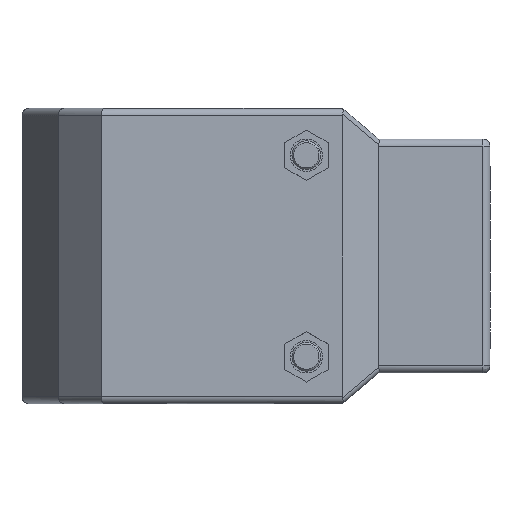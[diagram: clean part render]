
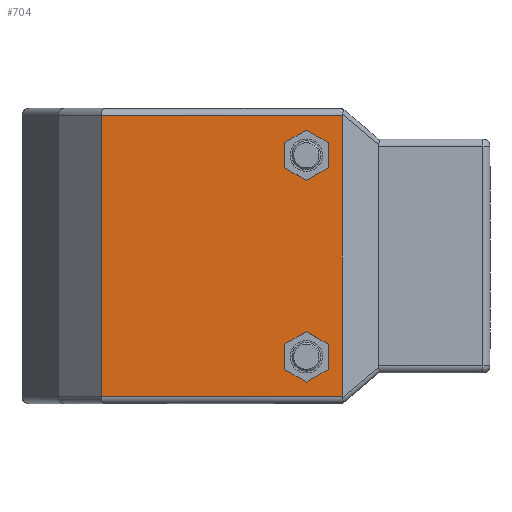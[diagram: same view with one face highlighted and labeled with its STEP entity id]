
A CAD part, front view. The second image highlights one B-rep face of the part: STEP entity #704.
In plain terms, the highlighted planar face has unit normal (0, -1, 0).
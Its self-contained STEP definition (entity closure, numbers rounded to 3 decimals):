
#9 = DIRECTION ( 'NONE',  ( -1., 0., 0. ) ) ;
#58 = VERTEX_POINT ( 'NONE', #1754 ) ;
#100 = LINE ( 'NONE', #913, #3841 ) ;
#167 = CARTESIAN_POINT ( 'NONE',  ( 42.562, -41., 31.5 ) ) ;
#199 = LINE ( 'NONE', #1851, #3766 ) ;
#201 = ORIENTED_EDGE ( 'NONE', *, *, #876, .F. ) ;
#250 = EDGE_CURVE ( 'NONE', #2463, #4385, #3297, .T. ) ;
#286 = ORIENTED_EDGE ( 'NONE', *, *, #346, .T. ) ;
#322 = DIRECTION ( 'NONE',  ( -0.866, 0., 0.5 ) ) ;
#332 = LINE ( 'NONE', #720, #1995 ) ;
#346 = EDGE_CURVE ( 'NONE', #2410, #4014, #100, .T. ) ;
#350 = CARTESIAN_POINT ( 'NONE',  ( 42.562, -41., 24.5 ) ) ;
#352 = VERTEX_POINT ( 'NONE', #3410 ) ;
#449 = CARTESIAN_POINT ( 'NONE',  ( 42.562, -41., 41. ) ) ;
#549 = DIRECTION ( 'NONE',  ( 0., 0., 1. ) ) ;
#581 = EDGE_CURVE ( 'NONE', #2410, #4126, #332, .T. ) ;
#598 = VERTEX_POINT ( 'NONE', #3212 ) ;
#704 = ADVANCED_FACE ( 'NONE', ( #1646, #908, #3012 ), #3405, .F. ) ;
#720 = CARTESIAN_POINT ( 'NONE',  ( -50.1, -41., 39. ) ) ;
#722 = VECTOR ( 'NONE', #3771, 1000. ) ;
#739 = CARTESIAN_POINT ( 'NONE',  ( -20.5, -41., -39. ) ) ;
#825 = VECTOR ( 'NONE', #322, 1000. ) ;
#836 = DIRECTION ( 'NONE',  ( 0., 0., 1. ) ) ;
#839 = EDGE_CURVE ( 'NONE', #58, #1877, #2884, .T. ) ;
#876 = EDGE_CURVE ( 'NONE', #352, #1728, #3607, .T. ) ;
#908 = FACE_BOUND ( 'NONE', #4652, .T. ) ;
#913 = CARTESIAN_POINT ( 'NONE',  ( -20.5, -41., 41. ) ) ;
#980 = DIRECTION ( 'NONE',  ( 0.866, 0., 0.5 ) ) ;
#1005 = ORIENTED_EDGE ( 'NONE', *, *, #4146, .F. ) ;
#1015 = ORIENTED_EDGE ( 'NONE', *, *, #3429, .F. ) ;
#1059 = CARTESIAN_POINT ( 'NONE',  ( 46.5, -41., -39. ) ) ;
#1093 = CARTESIAN_POINT ( 'NONE',  ( 42.562, -41., -24.5 ) ) ;
#1125 = VECTOR ( 'NONE', #836, 1000. ) ;
#1180 = EDGE_CURVE ( 'NONE', #1877, #598, #2105, .T. ) ;
#1202 = CARTESIAN_POINT ( 'NONE',  ( 36.5, -41., -21. ) ) ;
#1263 = LINE ( 'NONE', #449, #2074 ) ;
#1310 = DIRECTION ( 'NONE',  ( 0., 0., -1. ) ) ;
#1443 = LINE ( 'NONE', #3619, #4489 ) ;
#1497 = VECTOR ( 'NONE', #2678, 1000. ) ;
#1526 = CARTESIAN_POINT ( 'NONE',  ( 46.5, -41., 39. ) ) ;
#1553 = ORIENTED_EDGE ( 'NONE', *, *, #3213, .F. ) ;
#1646 = FACE_OUTER_BOUND ( 'NONE', #2519, .T. ) ;
#1728 = VERTEX_POINT ( 'NONE', #4460 ) ;
#1739 = CARTESIAN_POINT ( 'NONE',  ( 42.562, -41., -24.5 ) ) ;
#1754 = CARTESIAN_POINT ( 'NONE',  ( 36.5, -41., 21. ) ) ;
#1780 = DIRECTION ( 'NONE',  ( 1., 0., 0. ) ) ;
#1829 = ORIENTED_EDGE ( 'NONE', *, *, #2607, .F. ) ;
#1851 = CARTESIAN_POINT ( 'NONE',  ( 46.5, -41., 41. ) ) ;
#1856 = CARTESIAN_POINT ( 'NONE',  ( 36.5, -41., 35. ) ) ;
#1877 = VERTEX_POINT ( 'NONE', #350 ) ;
#1932 = VECTOR ( 'NONE', #980, 1000. ) ;
#1947 = LINE ( 'NONE', #2625, #2898 ) ;
#1995 = VECTOR ( 'NONE', #1780, 1000. ) ;
#2029 = CARTESIAN_POINT ( 'NONE',  ( 30.438, -41., -24.5 ) ) ;
#2058 = CARTESIAN_POINT ( 'NONE',  ( -20.5, -41., 39. ) ) ;
#2072 = CARTESIAN_POINT ( 'NONE',  ( 36.5, -41., -35. ) ) ;
#2074 = VECTOR ( 'NONE', #549, 1000. ) ;
#2075 = EDGE_CURVE ( 'NONE', #4126, #3930, #199, .T. ) ;
#2089 = LINE ( 'NONE', #167, #3757 ) ;
#2105 = LINE ( 'NONE', #2349, #1125 ) ;
#2193 = ORIENTED_EDGE ( 'NONE', *, *, #2075, .F. ) ;
#2209 = EDGE_CURVE ( 'NONE', #2974, #2463, #4258, .T. ) ;
#2269 = CARTESIAN_POINT ( 'NONE',  ( 30.438, -41., 41. ) ) ;
#2347 = DIRECTION ( 'NONE',  ( -0.866, 0., 0.5 ) ) ;
#2349 = CARTESIAN_POINT ( 'NONE',  ( 42.562, -41., 41. ) ) ;
#2372 = VECTOR ( 'NONE', #9, 1000. ) ;
#2410 = VERTEX_POINT ( 'NONE', #2058 ) ;
#2445 = ORIENTED_EDGE ( 'NONE', *, *, #2209, .F. ) ;
#2463 = VERTEX_POINT ( 'NONE', #2029 ) ;
#2519 = EDGE_LOOP ( 'NONE', ( #1829, #2193, #2660, #286 ) ) ;
#2570 = DIRECTION ( 'NONE',  ( 0.866, 0., -0.5 ) ) ;
#2579 = CARTESIAN_POINT ( 'NONE',  ( -20.5, -41., 41. ) ) ;
#2607 = EDGE_CURVE ( 'NONE', #3930, #4014, #2711, .T. ) ;
#2625 = CARTESIAN_POINT ( 'NONE',  ( 30.438, -41., 41. ) ) ;
#2660 = ORIENTED_EDGE ( 'NONE', *, *, #581, .F. ) ;
#2678 = DIRECTION ( 'NONE',  ( 0.866, 0., -0.5 ) ) ;
#2711 = LINE ( 'NONE', #739, #2372 ) ;
#2801 = VECTOR ( 'NONE', #2887, 1000. ) ;
#2823 = ORIENTED_EDGE ( 'NONE', *, *, #839, .F. ) ;
#2851 = LINE ( 'NONE', #1856, #2801 ) ;
#2884 = LINE ( 'NONE', #3114, #722 ) ;
#2887 = DIRECTION ( 'NONE',  ( -0.866, 0., -0.5 ) ) ;
#2892 = EDGE_CURVE ( 'NONE', #4315, #2974, #4658, .T. ) ;
#2898 = VECTOR ( 'NONE', #4439, 1000. ) ;
#2953 = VECTOR ( 'NONE', #4410, 1000. ) ;
#2974 = VERTEX_POINT ( 'NONE', #3517 ) ;
#3012 = FACE_BOUND ( 'NONE', #4048, .T. ) ;
#3044 = CARTESIAN_POINT ( 'NONE',  ( 30.438, -41., 24.5 ) ) ;
#3104 = AXIS2_PLACEMENT_3D ( 'NONE', #2579, #3999, #4696 ) ;
#3105 = ORIENTED_EDGE ( 'NONE', *, *, #2892, .F. ) ;
#3114 = CARTESIAN_POINT ( 'NONE',  ( 36.5, -41., 21. ) ) ;
#3198 = ORIENTED_EDGE ( 'NONE', *, *, #3255, .F. ) ;
#3212 = CARTESIAN_POINT ( 'NONE',  ( 42.562, -41., 31.5 ) ) ;
#3213 = EDGE_CURVE ( 'NONE', #3558, #3894, #2851, .T. ) ;
#3255 = EDGE_CURVE ( 'NONE', #4385, #352, #1443, .T. ) ;
#3297 = LINE ( 'NONE', #2269, #2953 ) ;
#3359 = CARTESIAN_POINT ( 'NONE',  ( 36.5, -41., 35. ) ) ;
#3405 = PLANE ( 'NONE',  #3104 ) ;
#3410 = CARTESIAN_POINT ( 'NONE',  ( 36.5, -41., -35. ) ) ;
#3429 = EDGE_CURVE ( 'NONE', #598, #3558, #2089, .T. ) ;
#3447 = VERTEX_POINT ( 'NONE', #3764 ) ;
#3511 = EDGE_CURVE ( 'NONE', #3894, #3447, #1947, .T. ) ;
#3517 = CARTESIAN_POINT ( 'NONE',  ( 36.5, -41., -21. ) ) ;
#3523 = ORIENTED_EDGE ( 'NONE', *, *, #250, .F. ) ;
#3558 = VERTEX_POINT ( 'NONE', #3359 ) ;
#3570 = ORIENTED_EDGE ( 'NONE', *, *, #1180, .F. ) ;
#3607 = LINE ( 'NONE', #2072, #1932 ) ;
#3619 = CARTESIAN_POINT ( 'NONE',  ( 30.438, -41., -31.5 ) ) ;
#3696 = DIRECTION ( 'NONE',  ( 0., 0., -1. ) ) ;
#3735 = CARTESIAN_POINT ( 'NONE',  ( 30.438, -41., -31.5 ) ) ;
#3748 = ORIENTED_EDGE ( 'NONE', *, *, #4262, .F. ) ;
#3757 = VECTOR ( 'NONE', #2347, 1000. ) ;
#3764 = CARTESIAN_POINT ( 'NONE',  ( 30.438, -41., 24.5 ) ) ;
#3766 = VECTOR ( 'NONE', #3696, 1000. ) ;
#3771 = DIRECTION ( 'NONE',  ( 0.866, 0., 0.5 ) ) ;
#3841 = VECTOR ( 'NONE', #1310, 1000. ) ;
#3894 = VERTEX_POINT ( 'NONE', #4605 ) ;
#3927 = ORIENTED_EDGE ( 'NONE', *, *, #3511, .F. ) ;
#3930 = VERTEX_POINT ( 'NONE', #1059 ) ;
#3961 = LINE ( 'NONE', #3044, #1497 ) ;
#3968 = CARTESIAN_POINT ( 'NONE',  ( -20.5, -41., -39. ) ) ;
#3999 = DIRECTION ( 'NONE',  ( 0., 1., 0. ) ) ;
#4014 = VERTEX_POINT ( 'NONE', #3968 ) ;
#4047 = VECTOR ( 'NONE', #4083, 1000. ) ;
#4048 = EDGE_LOOP ( 'NONE', ( #2445, #3105, #1005, #201, #3198, #3523 ) ) ;
#4083 = DIRECTION ( 'NONE',  ( -0.866, 0., -0.5 ) ) ;
#4126 = VERTEX_POINT ( 'NONE', #1526 ) ;
#4146 = EDGE_CURVE ( 'NONE', #1728, #4315, #1263, .T. ) ;
#4258 = LINE ( 'NONE', #1202, #4047 ) ;
#4262 = EDGE_CURVE ( 'NONE', #3447, #58, #3961, .T. ) ;
#4315 = VERTEX_POINT ( 'NONE', #1093 ) ;
#4385 = VERTEX_POINT ( 'NONE', #3735 ) ;
#4410 = DIRECTION ( 'NONE',  ( 0., 0., -1. ) ) ;
#4439 = DIRECTION ( 'NONE',  ( 0., 0., -1. ) ) ;
#4460 = CARTESIAN_POINT ( 'NONE',  ( 42.562, -41., -31.5 ) ) ;
#4489 = VECTOR ( 'NONE', #2570, 1000. ) ;
#4605 = CARTESIAN_POINT ( 'NONE',  ( 30.438, -41., 31.5 ) ) ;
#4652 = EDGE_LOOP ( 'NONE', ( #1015, #3570, #2823, #3748, #3927, #1553 ) ) ;
#4658 = LINE ( 'NONE', #1739, #825 ) ;
#4696 = DIRECTION ( 'NONE',  ( 0., 0., 1. ) ) ;
